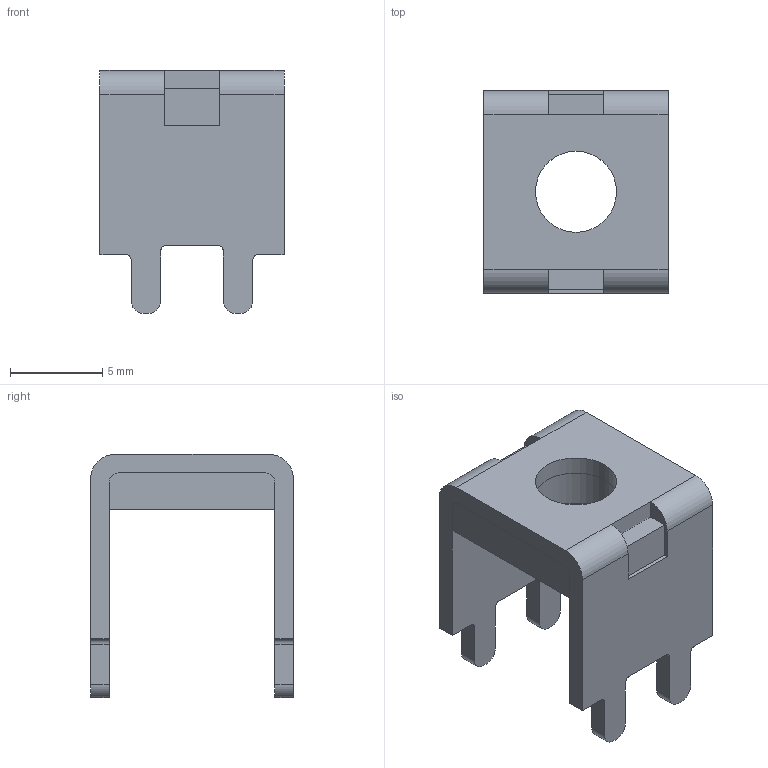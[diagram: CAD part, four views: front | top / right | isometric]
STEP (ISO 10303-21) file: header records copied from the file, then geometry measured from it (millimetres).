
FILE_DESCRIPTION(/* description */ (''),/* implementation_level */ '2;1');
FILE_NAME(/* name */ '10x11料厚1.0铁板中心距5.0_高10.0_脚3.2mm.stp',/* time_stamp */ '2025-06-17T15:50:45+08:00',/* author */ (''),/* organization */ (''),/* preprocessor_version */ 'ST-DEVELOPER v16',/* originating_system */ 'SIEMENS PLM Software NX 10.0',/* authorisation */ '');
FILE_SCHEMA (('AP203_CONFIGURATION_CONTROLLED_3D_DESIGN_OF_MECHANICAL_PARTS_AND_ASSEMBLIES_MIM_LF { 1 0 10303 403 2 1 2}'));
Length unit declared in the file: millimetre
Products named in the file (1): Admi2614474Dz7ix
Bounding box: 10 x 11 x 13.2 mm (x, y, z)
Volume: 425.5 mm3; surface area: 937.2 mm2
Topology: 2 solids, 2 shells, 76 faces, 225 edges, 149 vertices
Faces by surface type: plane 48, cylinder 28
Full cylindrical faces by diameter (mm): 4.4 x2
Entity records: 2632 total; most frequent: CARTESIAN_POINT 447, ORIENTED_EDGE 444, DIRECTION 436, EDGE_CURVE 222, LINE 162, VECTOR 162, VERTEX_POINT 148, AXIS2_PLACEMENT_3D 137
